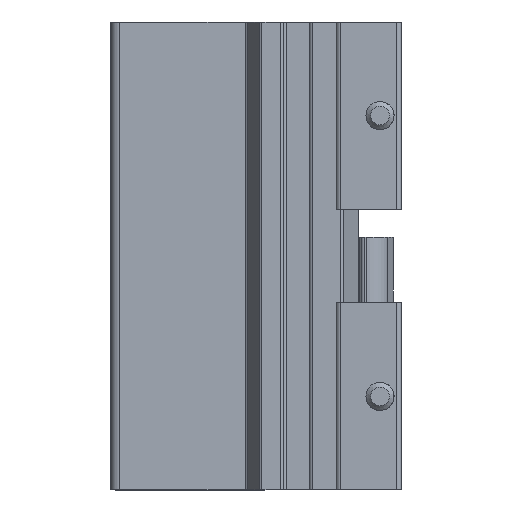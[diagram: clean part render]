
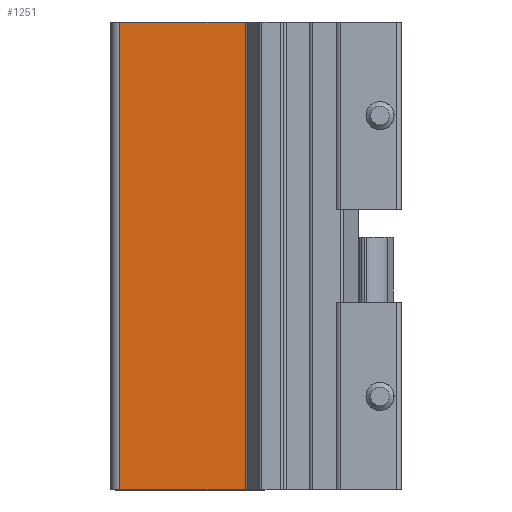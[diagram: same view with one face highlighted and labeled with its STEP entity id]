
A CAD part, left-side view. The second image highlights one B-rep face of the part: STEP entity #1251.
In plain terms, the highlighted planar face has unit normal (-1, 0, 0) as drawn and (0, -1, 0) by its records, which use the part's own axes.
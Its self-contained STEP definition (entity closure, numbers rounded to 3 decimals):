
#1251=ADVANCED_FACE('',(#2378),#2379,.F.);
#2378=FACE_OUTER_BOUND('',#3481,.T.);
#2379=PLANE('',#3482);
#3481=EDGE_LOOP('',(#6039,#6040,#6041,#6042));
#3482=AXIS2_PLACEMENT_3D('',#6043,#6044,#6045);
#6039=ORIENTED_EDGE('',*,*,#7746,.T.);
#6040=ORIENTED_EDGE('',*,*,#7747,.F.);
#6041=ORIENTED_EDGE('',*,*,#7595,.F.);
#6042=ORIENTED_EDGE('',*,*,#7744,.T.);
#6043=CARTESIAN_POINT('',(12.117,6.3,50.0));
#6044=DIRECTION('',(0.,1.0,0.0));
#6045=DIRECTION('',(-1.0,0.,0.0));
#7595=EDGE_CURVE('',#9189,#9191,#9192,.T.);
#7744=EDGE_CURVE('',#9189,#9441,#9443,.T.);
#7746=EDGE_CURVE('',#9441,#9445,#9446,.T.);
#7747=EDGE_CURVE('',#9191,#9445,#9447,.T.);
#9189=VERTEX_POINT('',#11514);
#9191=VERTEX_POINT('',#11516);
#9192=LINE('',#11517,#11518);
#9441=VERTEX_POINT('',#11841);
#9443=LINE('',#11843,#11844);
#9445=VERTEX_POINT('',#11846);
#9446=LINE('',#11847,#11848);
#9447=LINE('',#11849,#11850);
#11514=CARTESIAN_POINT('',(12.117,6.3,50.0));
#11516=CARTESIAN_POINT('',(25.5,6.3,50.0));
#11517=CARTESIAN_POINT('',(12.117,6.3,50.0));
#11518=VECTOR('',#13206,1.0);
#11841=CARTESIAN_POINT('',(12.117,6.3,0.0));
#11843=CARTESIAN_POINT('',(12.117,6.3,50.0));
#11844=VECTOR('',#13434,1.0);
#11846=CARTESIAN_POINT('',(25.5,6.3,0.0));
#11847=CARTESIAN_POINT('',(12.117,6.3,0.0));
#11848=VECTOR('',#13435,1.0);
#11849=CARTESIAN_POINT('',(25.5,6.3,50.0));
#11850=VECTOR('',#13436,1.0);
#13206=DIRECTION('',(1.0,0.,0.0));
#13434=DIRECTION('',(0.0,0.0,-1.0));
#13435=DIRECTION('',(1.0,0.,0.0));
#13436=DIRECTION('',(0.0,0.0,-1.0));
